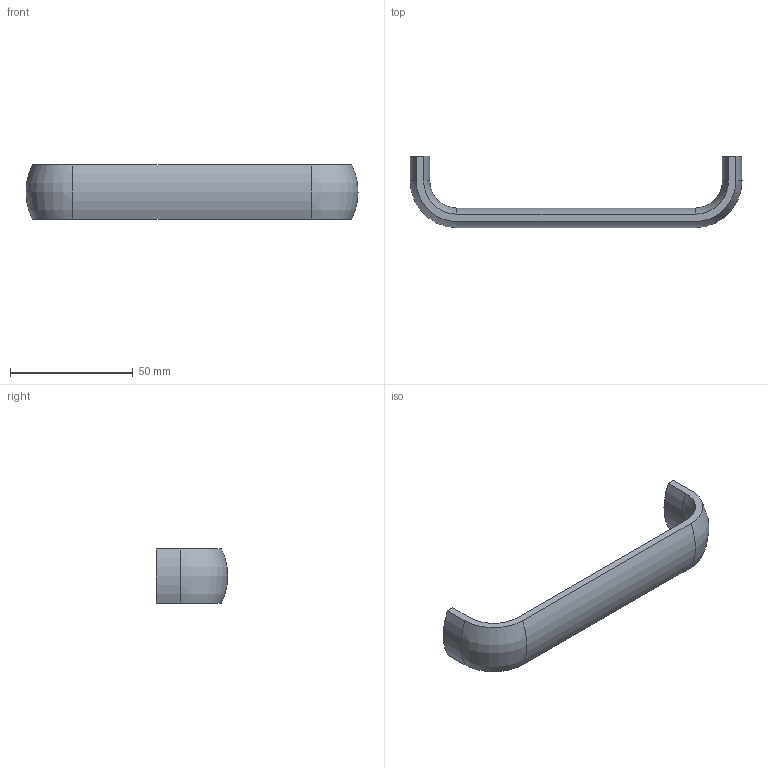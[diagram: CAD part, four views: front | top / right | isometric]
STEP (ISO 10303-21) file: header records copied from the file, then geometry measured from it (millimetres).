
FILE_DESCRIPTION( ( '' ), '1' );
FILE_NAME( 'C:/Documents and Settings/Sachin/Desktop/Sheet 10_1/stp/ 115169.stp', '2013-10-22T08:52:49', ( '' ), ( '' ), ' ', ' ', ' ' );
FILE_SCHEMA( ( 'CONFIG_CONTROL_DESIGN' ) );
Length unit declared in the file: millimetre
Products named in the file (1): 1
Bounding box: 135 x 29 x 22 mm (x, y, z)
Volume: 22726.7 mm3; surface area: 8960.5 mm2
Topology: 1 solids, 1 shells, 26 faces, 66 edges, 44 vertices
Faces by surface type: cylinder 10, plane 10, torus 6
Entity records: 852 total; most frequent: DIRECTION 158, CARTESIAN_POINT 137, ORIENTED_EDGE 132, EDGE_CURVE 66, AXIS2_PLACEMENT_3D 65, VERTEX_POINT 44, CIRCLE 38, EDGE_LOOP 28
